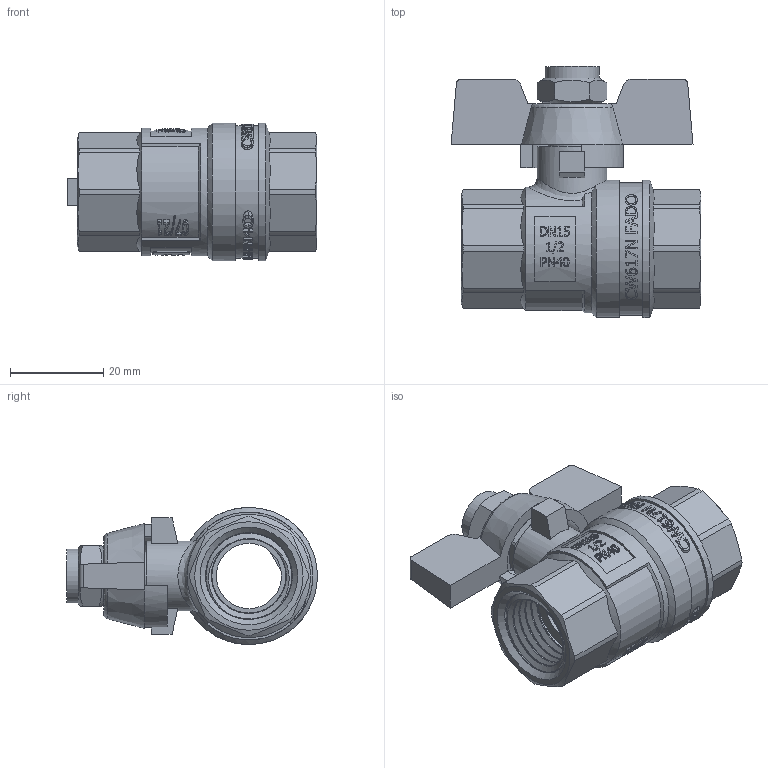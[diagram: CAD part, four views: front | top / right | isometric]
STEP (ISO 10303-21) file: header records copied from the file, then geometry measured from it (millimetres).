
FILE_DESCRIPTION(/* description */ (''),/* implementation_level */ '2;1');
FILE_NAME(/* name */ 'C:\Users\Doom\Desktop\Фадотех\KB11 08.11.2021\KB11 08.11.2021.stp',/* time_stamp */ '2021-12-04T14:40:56+02:00',/* author */ ('Doom'),/* organization */ (''),/* preprocessor_version */ 'ST-DEVELOPER v18',/* originating_system */ 'Autodesk Inventor 2020',/* authorisation */ '');
FILE_SCHEMA (('AUTOMOTIVE_DESIGN { 1 0 10303 214 3 1 1 }'));
Products named in the file (8): KB11 08.11.2021; 5010501048005; KA2 08.11.2021; 22208286; 20642011; KA1 08.11.2021; KA2 08.11.2021_1; DIN 985 - M8
Assembly tree (7 placements, depth 2):
  KB11 08.11.2021
    5010501048005
    KA2 08.11.2021
    22208286
    20642011
    KA1 08.11.2021
    KA2 08.11.2021_1
    DIN 985 - M8
Bounding box: 53.7 x 53.95 x 29.5 mm (x, y, z)
Volume: 24182.1 mm3; surface area: 25898.9 mm2
Topology: 14 solids, 14 shells, 1038 faces, 2851 edges, 1912 vertices
Faces by surface type: plane 452, bspline 358, cylinder 181, cone 37, torus 9, sphere 1
Full cylindrical faces by diameter (mm): 6.647 x1, 8 x1, 8.1 x1, 8.2 x1, 8.946 x3, 10 x1, 10.3 x1, 10.8 x2, 11.6 x1, 12.5 x2, 14 x3, 15 x1, 15.94 x6, 16.21 x4, 17.5 x1, 18.63 x2, 18.9 x2, 20 x2, 21.276 x5, 22.776 x2, 23.5 x2, 25 x5, 28.5 x1, 29.5 x2
Entity records: 59888 total; most frequent: CARTESIAN_POINT 35555, ORIENTED_EDGE 5688, DIRECTION 3937, EDGE_CURVE 2844, VERTEX_POINT 1909, AXIS2_PLACEMENT_3D 1420, EDGE_LOOP 1135, LINE 1097
